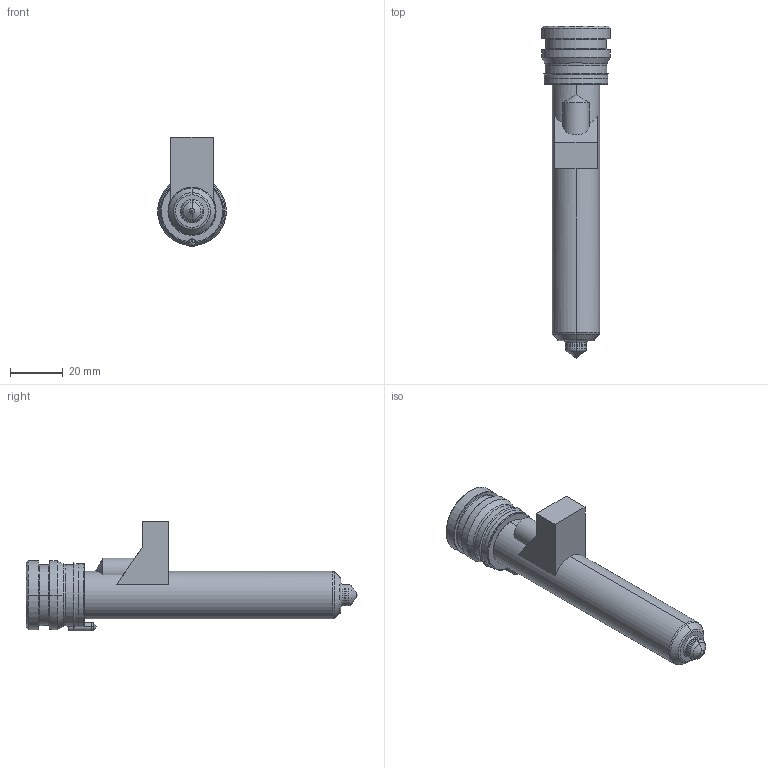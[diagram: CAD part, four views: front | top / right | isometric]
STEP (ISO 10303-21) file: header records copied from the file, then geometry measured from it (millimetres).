
FILE_DESCRIPTION((''),'2;1');
FILE_NAME('MPN-08-24-TX8-106-M','2026-02-05T13:26:11',('UPTIO'),('Thermoplay S.p.A.'),'CREO PARAMETRIC BY PTC INC, 2023494','CREO PARAMETRIC BY PTC INC, 2023494','');
FILE_SCHEMA(('CONFIG_CONTROL_DESIGN','SHAPE_APPEARANCE_LAYERS_GROUPS'));
Length unit declared in the file: millimetre
Products named in the file (1): MPN-08-24-TX8-106-M
Bounding box: 26 x 125.5 x 41.5 mm (x, y, z)
Volume: 24570.2 mm3; surface area: 32198.8 mm2
Topology: 2 solids, 3 shells, 532 faces, 1392 edges, 855 vertices
Faces by surface type: cylinder 174, plane 144, bspline 77, torus 62, cone 58, sphere 11, extrusion 6
Entity records: 27824 total; most frequent: CARTESIAN_POINT 12200, ORIENTED_EDGE 2762, DIRECTION 2491, EDGE_CURVE 1381, AXIS2_PLACEMENT_3D 974, VERTEX_POINT 855, EDGE_LOOP 562, VECTOR 543
